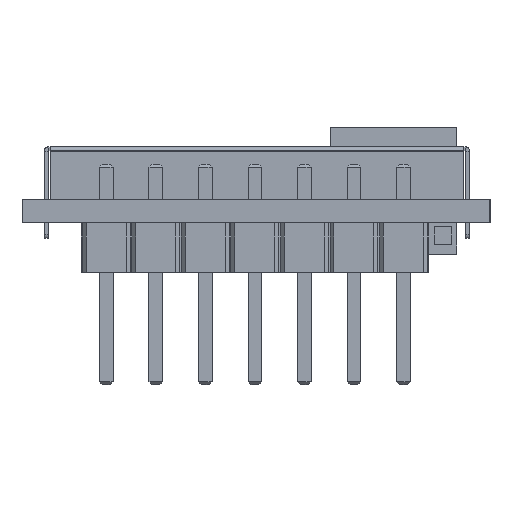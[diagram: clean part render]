
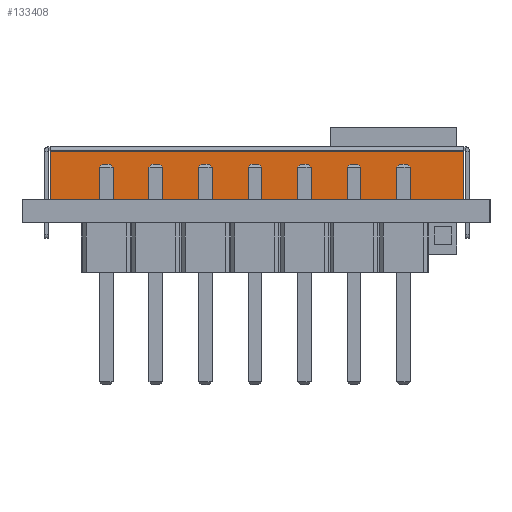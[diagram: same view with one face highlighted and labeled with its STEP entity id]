
A CAD part, left-side view. The second image highlights one B-rep face of the part: STEP entity #133408.
In plain terms, the highlighted planar face has unit normal (-1, 0, 0).
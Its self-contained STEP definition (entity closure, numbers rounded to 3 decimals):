
#128407 = CYLINDRICAL_SURFACE('',#128408,0.22);
#128408 = AXIS2_PLACEMENT_3D('',#128409,#128410,#128411);
#128409 = CARTESIAN_POINT('',(-16.63,10.6,-0.22));
#128410 = DIRECTION('',(0.,1.,0.));
#128411 = DIRECTION('',(-1.,0.,0.));
#132848 = VERTEX_POINT('',#132849);
#132849 = CARTESIAN_POINT('',(-16.85,-10.6,-0.22));
#132863 = PLANE('',#132864);
#132864 = AXIS2_PLACEMENT_3D('',#132865,#132866,#132867);
#132865 = CARTESIAN_POINT('',(-16.85,-10.6,-0.2));
#132866 = DIRECTION('',(0.,1.,0.));
#132867 = DIRECTION('',(-1.,0.,0.));
#132969 = VERTEX_POINT('',#132970);
#132970 = CARTESIAN_POINT('',(-16.85,10.6,-0.22));
#133076 = PLANE('',#133077);
#133077 = AXIS2_PLACEMENT_3D('',#133078,#133079,#133080);
#133078 = CARTESIAN_POINT('',(-16.85,10.6,-2.7));
#133079 = DIRECTION('',(0.,-1.,0.));
#133080 = DIRECTION('',(1.,0.,0.));
#133159 = EDGE_CURVE('',#132969,#132848,#133160,.T.);
#133160 = SURFACE_CURVE('',#133161,(#133165,#133194),.PCURVE_S1.);
#133161 = LINE('',#133162,#133163);
#133162 = CARTESIAN_POINT('',(-16.85,0.,-0.22));
#133163 = VECTOR('',#133164,1.);
#133164 = DIRECTION('',(0.,-1.,0.));
#133165 = PCURVE('',#128407,#133166);
#133166 = DEFINITIONAL_REPRESENTATION('',(#133167),#133193);
#133167 = B_SPLINE_CURVE_WITH_KNOTS('',3,(#133168,#133169,#133170,
    #133171,#133172,#133173,#133174,#133175,#133176,#133177,#133178,
    #133179,#133180,#133181,#133182,#133183,#133184,#133185,#133186,
    #133187,#133188,#133189,#133190,#133191,#133192),.UNSPECIFIED.,.F.,
  .F.,(4,1,1,1,1,1,1,1,1,1,1,1,1,1,1,1,1,1,1,1,1,1,4),(-10.6,
    -9.636,-8.673,-7.709,-6.745,
    -5.782,-4.818,-3.855,-2.891,
    -1.927,-0.964,0.,0.964,
    1.927,2.891,3.855,4.818,
    5.782,6.745,7.709,8.673,
    9.636,10.6),.UNSPECIFIED.);
#133168 = CARTESIAN_POINT('',(0.,0.));
#133169 = CARTESIAN_POINT('',(0.,-0.321));
#133170 = CARTESIAN_POINT('',(0.,-0.964));
#133171 = CARTESIAN_POINT('',(0.,-1.927));
#133172 = CARTESIAN_POINT('',(0.,-2.891));
#133173 = CARTESIAN_POINT('',(0.,-3.855));
#133174 = CARTESIAN_POINT('',(0.,-4.818));
#133175 = CARTESIAN_POINT('',(0.,-5.782));
#133176 = CARTESIAN_POINT('',(0.,-6.745));
#133177 = CARTESIAN_POINT('',(0.,-7.709));
#133178 = CARTESIAN_POINT('',(0.,-8.673));
#133179 = CARTESIAN_POINT('',(0.,-9.636));
#133180 = CARTESIAN_POINT('',(0.,-10.6));
#133181 = CARTESIAN_POINT('',(0.,-11.564));
#133182 = CARTESIAN_POINT('',(0.,-12.527));
#133183 = CARTESIAN_POINT('',(0.,-13.491));
#133184 = CARTESIAN_POINT('',(0.,-14.455));
#133185 = CARTESIAN_POINT('',(0.,-15.418));
#133186 = CARTESIAN_POINT('',(0.,-16.382));
#133187 = CARTESIAN_POINT('',(0.,-17.345));
#133188 = CARTESIAN_POINT('',(0.,-18.309));
#133189 = CARTESIAN_POINT('',(0.,-19.273));
#133190 = CARTESIAN_POINT('',(0.,-20.236));
#133191 = CARTESIAN_POINT('',(0.,-20.879));
#133192 = CARTESIAN_POINT('',(0.,-21.2));
#133193 = ( GEOMETRIC_REPRESENTATION_CONTEXT(2) 
PARAMETRIC_REPRESENTATION_CONTEXT() REPRESENTATION_CONTEXT('2D SPACE',''
  ) );
#133194 = PCURVE('',#133195,#133200);
#133195 = PLANE('',#133196);
#133196 = AXIS2_PLACEMENT_3D('',#133197,#133198,#133199);
#133197 = CARTESIAN_POINT('',(-16.85,0.,
    0.));
#133198 = DIRECTION('',(1.,0.,0.));
#133199 = DIRECTION('',(0.,0.,-1.));
#133200 = DEFINITIONAL_REPRESENTATION('',(#133201),#133205);
#133201 = LINE('',#133202,#133203);
#133202 = CARTESIAN_POINT('',(0.22,0.));
#133203 = VECTOR('',#133204,1.);
#133204 = DIRECTION('',(0.,-1.));
#133205 = ( GEOMETRIC_REPRESENTATION_CONTEXT(2) 
PARAMETRIC_REPRESENTATION_CONTEXT() REPRESENTATION_CONTEXT('2D SPACE',''
  ) );
#133290 = VERTEX_POINT('',#133291);
#133291 = CARTESIAN_POINT('',(-16.85,10.6,-2.7));
#133305 = PLANE('',#133306);
#133306 = AXIS2_PLACEMENT_3D('',#133307,#133308,#133309);
#133307 = CARTESIAN_POINT('',(-16.85,-10.6,-2.7));
#133308 = DIRECTION('',(0.,0.,1.));
#133309 = DIRECTION('',(1.,0.,0.));
#133317 = EDGE_CURVE('',#132969,#133290,#133318,.T.);
#133318 = SURFACE_CURVE('',#133319,(#133323,#133330),.PCURVE_S1.);
#133319 = LINE('',#133320,#133321);
#133320 = CARTESIAN_POINT('',(-16.85,10.6,-2.7));
#133321 = VECTOR('',#133322,1.);
#133322 = DIRECTION('',(0.,0.,-1.));
#133323 = PCURVE('',#133076,#133324);
#133324 = DEFINITIONAL_REPRESENTATION('',(#133325),#133329);
#133325 = LINE('',#133326,#133327);
#133326 = CARTESIAN_POINT('',(0.,0.));
#133327 = VECTOR('',#133328,1.);
#133328 = DIRECTION('',(0.,-1.));
#133329 = ( GEOMETRIC_REPRESENTATION_CONTEXT(2) 
PARAMETRIC_REPRESENTATION_CONTEXT() REPRESENTATION_CONTEXT('2D SPACE',''
  ) );
#133330 = PCURVE('',#133195,#133331);
#133331 = DEFINITIONAL_REPRESENTATION('',(#133332),#133336);
#133332 = LINE('',#133333,#133334);
#133333 = CARTESIAN_POINT('',(2.7,10.6));
#133334 = VECTOR('',#133335,1.);
#133335 = DIRECTION('',(1.,0.));
#133336 = ( GEOMETRIC_REPRESENTATION_CONTEXT(2) 
PARAMETRIC_REPRESENTATION_CONTEXT() REPRESENTATION_CONTEXT('2D SPACE',''
  ) );
#133342 = EDGE_CURVE('',#133343,#132848,#133345,.T.);
#133343 = VERTEX_POINT('',#133344);
#133344 = CARTESIAN_POINT('',(-16.85,-10.6,-2.7));
#133345 = SURFACE_CURVE('',#133346,(#133350,#133357),.PCURVE_S1.);
#133346 = LINE('',#133347,#133348);
#133347 = CARTESIAN_POINT('',(-16.85,-10.6,-0.2));
#133348 = VECTOR('',#133349,1.);
#133349 = DIRECTION('',(0.,0.,1.));
#133350 = PCURVE('',#132863,#133351);
#133351 = DEFINITIONAL_REPRESENTATION('',(#133352),#133356);
#133352 = LINE('',#133353,#133354);
#133353 = CARTESIAN_POINT('',(0.,0.));
#133354 = VECTOR('',#133355,1.);
#133355 = DIRECTION('',(0.,1.));
#133356 = ( GEOMETRIC_REPRESENTATION_CONTEXT(2) 
PARAMETRIC_REPRESENTATION_CONTEXT() REPRESENTATION_CONTEXT('2D SPACE',''
  ) );
#133357 = PCURVE('',#133195,#133358);
#133358 = DEFINITIONAL_REPRESENTATION('',(#133359),#133363);
#133359 = LINE('',#133360,#133361);
#133360 = CARTESIAN_POINT('',(0.2,-10.6));
#133361 = VECTOR('',#133362,1.);
#133362 = DIRECTION('',(-1.,0.));
#133363 = ( GEOMETRIC_REPRESENTATION_CONTEXT(2) 
PARAMETRIC_REPRESENTATION_CONTEXT() REPRESENTATION_CONTEXT('2D SPACE',''
  ) );
#133408 = ADVANCED_FACE('',(#133409),#133195,.F.);
#133409 = FACE_BOUND('',#133410,.T.);
#133410 = EDGE_LOOP('',(#133411,#133412,#133413,#133434));
#133411 = ORIENTED_EDGE('',*,*,#133159,.F.);
#133412 = ORIENTED_EDGE('',*,*,#133317,.T.);
#133413 = ORIENTED_EDGE('',*,*,#133414,.T.);
#133414 = EDGE_CURVE('',#133290,#133343,#133415,.T.);
#133415 = SURFACE_CURVE('',#133416,(#133420,#133427),.PCURVE_S1.);
#133416 = LINE('',#133417,#133418);
#133417 = CARTESIAN_POINT('',(-16.85,-10.6,-2.7));
#133418 = VECTOR('',#133419,1.);
#133419 = DIRECTION('',(0.,-1.,0.));
#133420 = PCURVE('',#133195,#133421);
#133421 = DEFINITIONAL_REPRESENTATION('',(#133422),#133426);
#133422 = LINE('',#133423,#133424);
#133423 = CARTESIAN_POINT('',(2.7,-10.6));
#133424 = VECTOR('',#133425,1.);
#133425 = DIRECTION('',(0.,-1.));
#133426 = ( GEOMETRIC_REPRESENTATION_CONTEXT(2) 
PARAMETRIC_REPRESENTATION_CONTEXT() REPRESENTATION_CONTEXT('2D SPACE',''
  ) );
#133427 = PCURVE('',#133305,#133428);
#133428 = DEFINITIONAL_REPRESENTATION('',(#133429),#133433);
#133429 = LINE('',#133430,#133431);
#133430 = CARTESIAN_POINT('',(0.,0.));
#133431 = VECTOR('',#133432,1.);
#133432 = DIRECTION('',(0.,-1.));
#133433 = ( GEOMETRIC_REPRESENTATION_CONTEXT(2) 
PARAMETRIC_REPRESENTATION_CONTEXT() REPRESENTATION_CONTEXT('2D SPACE',''
  ) );
#133434 = ORIENTED_EDGE('',*,*,#133342,.T.);
